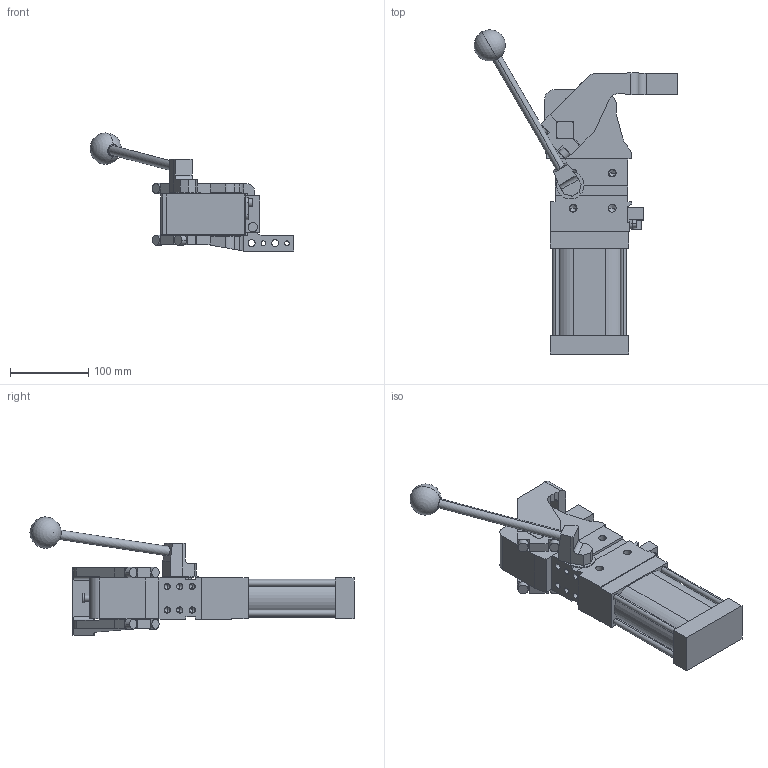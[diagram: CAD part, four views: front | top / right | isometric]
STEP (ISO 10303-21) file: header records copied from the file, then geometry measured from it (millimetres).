
FILE_DESCRIPTION (( 'STEP AP214' ), '1' );
FILE_NAME ('cplm63lav3dsi1g_26.STEP', '2023-01-26T15:00:13', ( '' ), ( '' ), 'SwSTEP 2.0', 'SolidWorks 2022', '' );
FILE_SCHEMA (( 'AUTOMOTIVE_DESIGN' ));
Length unit declared in the file: millimetre
Products named in the file (5): blocchetto_VEP_0; cplm63lav3dsi1g_26; meccanica_cplm_63; leva_sx_offset_45_cpl63; comando_manuale_cplm_63
Assembly tree (4 placements, depth 2):
  cplm63lav3dsi1g_26
    meccanica_cplm_63
    blocchetto_VEP_0
    leva_sx_offset_45_cpl63
    comando_manuale_cplm_63
Bounding box: 260.57 x 414.56 x 151 mm (x, y, z)
Volume: 1888099.3 mm3; surface area: 211431.7 mm2
Topology: 4 solids, 4 shells, 432 faces, 1134 edges, 703 vertices
Faces by surface type: plane 219, cylinder 161, cone 50, sphere 2
Entity records: 14577 total; most frequent: CARTESIAN_POINT 2322, DIRECTION 2302, ORIENTED_EDGE 2166, EDGE_CURVE 1083, AXIS2_PLACEMENT_3D 794, VECTOR 714, LINE 714, VERTEX_POINT 700
